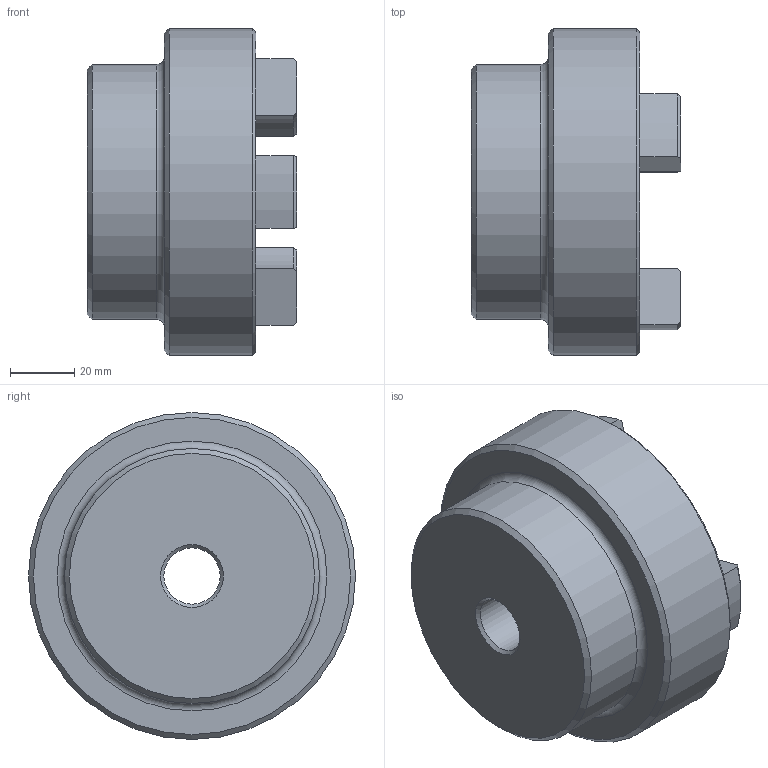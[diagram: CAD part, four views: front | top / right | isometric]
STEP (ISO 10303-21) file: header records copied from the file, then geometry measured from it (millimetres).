
FILE_DESCRIPTION (( 'STEP AP203' ), '1' );
FILE_NAME ('RC4.step', '2024-07-24T17:49:31', ( 'Adlan' ), ( '' ), 'SwSTEP 2.0', 'SolidWorks 2013', '' );
FILE_SCHEMA (( 'CONFIG_CONTROL_DESIGN' ));
Length unit declared in the file: inch
Products named in the file (1): RC4
Bounding box: 65.02 x 101.6 x 101.6 mm (x, y, z)
Volume: 271798.9 mm3; surface area: 39856.3 mm2
Topology: 1 solids, 1 shells, 60 faces, 146 edges, 90 vertices
Faces by surface type: cylinder 24, plane 13, torus 13, cone 10
Full cylindrical faces by diameter (mm): 17.47 x1, 79.248 x1, 101.6 x1
Entity records: 1841 total; most frequent: CARTESIAN_POINT 341, DIRECTION 324, ORIENTED_EDGE 274, EDGE_CURVE 137, AXIS2_PLACEMENT_3D 132, VERTEX_POINT 89, EDGE_LOOP 72, CIRCLE 71
